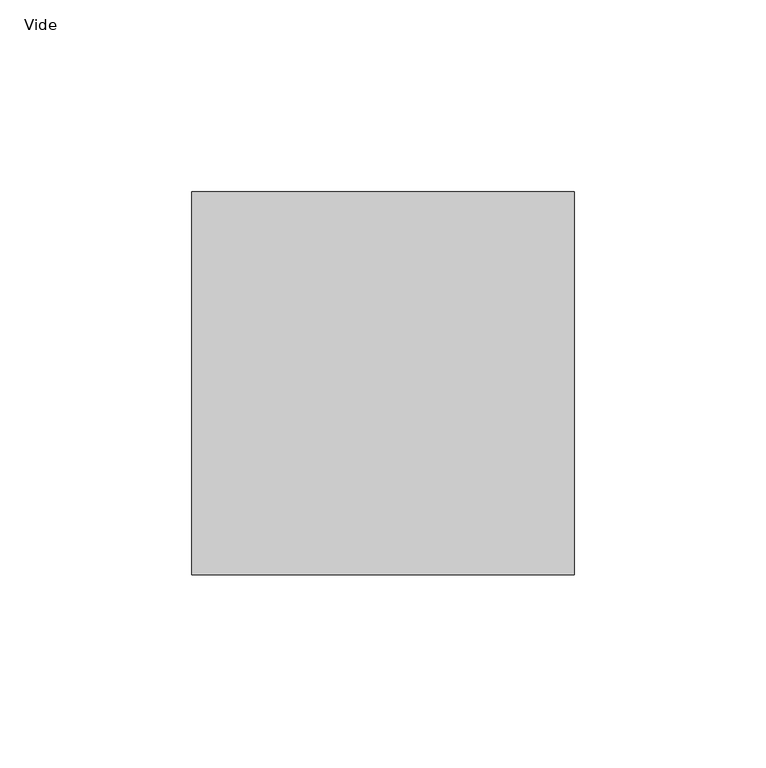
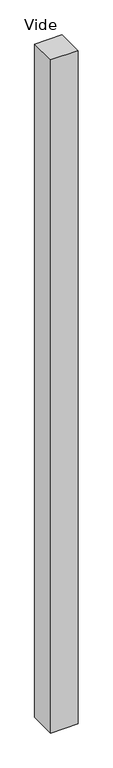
"""IFC4 building model written with IfcOpenShell, lengths in millimetres: plate geometry, Panneau système vide : Vide."""

from ifc_helpers import new_model, si_unit, origin, origin_with_axes, place, context, project, spatial, polyline, outline, extrude, source, transform, mapped, element, save


def vide_45902dbe(model_context):
    return source(origin(), model_context, "Body", "SweptSolid", [
        extrude(outline(polyline([(49.9509842, 50.0), (-49.9509842, 50.0), (-49.9509842, 150.0), (49.9509842, 150.0), (49.9509842, 50.0)])), origin_with_axes(), (0.0, 0.0, 1.0), 2588.190451),
    ])


if __name__ == "__main__":
    model = new_model("IFC4")
    model_context = context("Model", 3, world=origin())
    ifc_project = project(units=[si_unit("LENGTHUNIT", "METRE", prefix="MILLI")], contexts=[model_context])
    site = spatial("IfcSite", under=ifc_project)
    building = spatial("IfcBuilding", under=site)
    placement = place(None, origin())
    vide_shape = vide_45902dbe(model_context)
    element("IfcPlate", 1, ObjectType="Panneau système vide : Vide", at=placement, inside=building, context=model_context, shape_type="MappedRepresentation", body=[
        mapped(vide_shape, transform((0.0, 0.0, 0.0), x_axis=(1.0, 0.0, 0.0), y_axis=(0.0, 1.0, 0.0), z_axis=(0.0, 0.0, 1.0))),
    ])
    save(model, "model.ifc")
